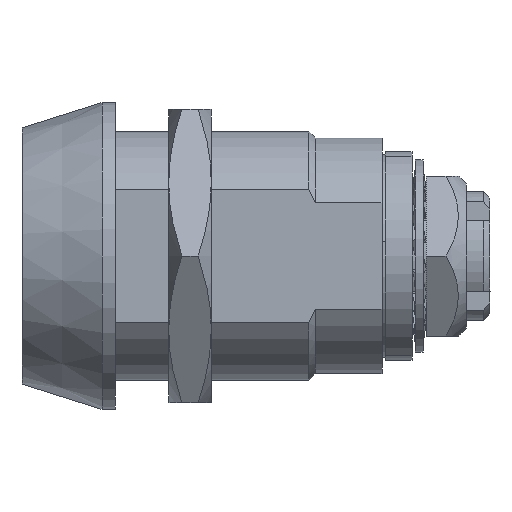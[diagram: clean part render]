
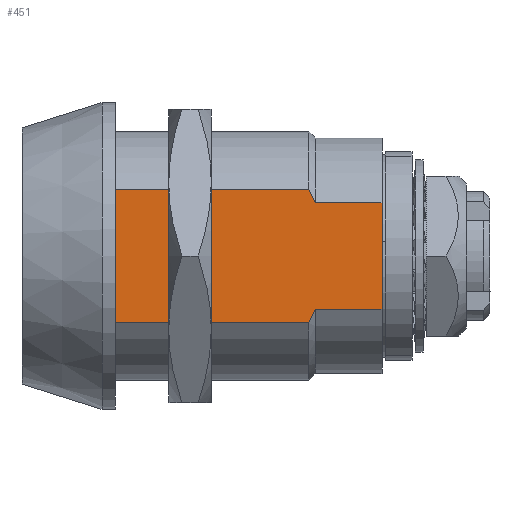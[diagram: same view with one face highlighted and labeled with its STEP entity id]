
A CAD part, left-side view. The second image highlights one B-rep face of the part: STEP entity #451.
In plain terms, the highlighted planar face has unit normal (-1, 0, 0).
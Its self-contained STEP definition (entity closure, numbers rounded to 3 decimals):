
#134 = EDGE_CURVE ( 'NONE', #5857, #4304, #5358, .T. ) ;
#297 = VECTOR ( 'NONE', #3434, 1000. ) ;
#451 = ADVANCED_FACE ( 'NONE', ( #5124 ), #5885, .T. ) ;
#472 = CARTESIAN_POINT ( 'NONE',  ( -7.9, 5.322, 4.669 ) ) ;
#508 = CARTESIAN_POINT ( 'NONE',  ( -7.9, 5., 3.989 ) ) ;
#587 = CARTESIAN_POINT ( 'NONE',  ( -7.9, 5.5, 5.001 ) ) ;
#651 = ORIENTED_EDGE ( 'NONE', *, *, #9443, .F. ) ;
#949 = VERTEX_POINT ( 'NONE', #4479 ) ;
#1168 = EDGE_CURVE ( 'NONE', #7373, #5988, #1871, .T. ) ;
#1228 = CARTESIAN_POINT ( 'NONE',  ( -7.9, 20., 5.001 ) ) ;
#1821 = VECTOR ( 'NONE', #2579, 1000. ) ;
#1871 = LINE ( 'NONE', #3613, #10432 ) ;
#1888 = CARTESIAN_POINT ( 'NONE',  ( -7.9, 5.322, -4.669 ) ) ;
#2010 = LINE ( 'NONE', #9469, #8642 ) ;
#2125 = CARTESIAN_POINT ( 'NONE',  ( -7.9, 0., 3.989 ) ) ;
#2234 = EDGE_CURVE ( 'NONE', #5857, #6680, #5461, .T. ) ;
#2364 = CARTESIAN_POINT ( 'NONE',  ( -7.9, 20., 5.001 ) ) ;
#2388 = LINE ( 'NONE', #5248, #1821 ) ;
#2579 = DIRECTION ( 'NONE',  ( 0., 0., -1. ) ) ;
#2681 = VERTEX_POINT ( 'NONE', #1228 ) ;
#3182 = CARTESIAN_POINT ( 'NONE',  ( -7.9, 20., 0. ) ) ;
#3220 = DIRECTION ( 'NONE',  ( 0., 0., 1. ) ) ;
#3238 = ORIENTED_EDGE ( 'NONE', *, *, #2234, .T. ) ;
#3264 = DIRECTION ( 'NONE',  ( 0., 1., 0. ) ) ;
#3287 = AXIS2_PLACEMENT_3D ( 'NONE', #3182, #5920, #5959 ) ;
#3434 = DIRECTION ( 'NONE',  ( 0., -1., 0. ) ) ;
#3613 = CARTESIAN_POINT ( 'NONE',  ( -7.9, 20., -5.001 ) ) ;
#3670 = CARTESIAN_POINT ( 'NONE',  ( -7.9, 5., -3.989 ) ) ;
#4050 = CARTESIAN_POINT ( 'NONE',  ( -7.9, 5.155, 4.332 ) ) ;
#4056 = ORIENTED_EDGE ( 'NONE', *, *, #10259, .T. ) ;
#4064 = DIRECTION ( 'NONE',  ( 0., 1., 0. ) ) ;
#4193 = EDGE_LOOP ( 'NONE', ( #6841, #4988, #5504, #4783, #651, #4056, #11032, #3238 ) ) ;
#4304 = VERTEX_POINT ( 'NONE', #2125 ) ;
#4454 = DIRECTION ( 'NONE',  ( 0., -1., 0. ) ) ;
#4479 = CARTESIAN_POINT ( 'NONE',  ( -7.9, 5., -3.989 ) ) ;
#4654 = B_SPLINE_CURVE_WITH_KNOTS ( 'NONE', 3,
 ( #8191, #1888, #9110, #3670 ),
 .UNSPECIFIED., .F., .F.,
 ( 4, 4 ),
 ( 0., 0.001 ),
 .UNSPECIFIED. ) ;
#4660 = VECTOR ( 'NONE', #3264, 1000. ) ;
#4734 = CARTESIAN_POINT ( 'NONE',  ( -7.9, 20., -5.001 ) ) ;
#4783 = ORIENTED_EDGE ( 'NONE', *, *, #8648, .T. ) ;
#4988 = ORIENTED_EDGE ( 'NONE', *, *, #8267, .T. ) ;
#5124 = FACE_OUTER_BOUND ( 'NONE', #4193, .T. ) ;
#5248 = CARTESIAN_POINT ( 'NONE',  ( -7.9, 20., 0. ) ) ;
#5281 = CARTESIAN_POINT ( 'NONE',  ( -7.9, 5., 3.989 ) ) ;
#5358 = LINE ( 'NONE', #5676, #297 ) ;
#5461 = B_SPLINE_CURVE_WITH_KNOTS ( 'NONE', 3,
 ( #508, #4050, #472, #587 ),
 .UNSPECIFIED., .F., .F.,
 ( 4, 4 ),
 ( 0., 0.001 ),
 .UNSPECIFIED. ) ;
#5489 = VERTEX_POINT ( 'NONE', #11415 ) ;
#5504 = ORIENTED_EDGE ( 'NONE', *, *, #1168, .T. ) ;
#5676 = CARTESIAN_POINT ( 'NONE',  ( -7.9, 0., 3.989 ) ) ;
#5857 = VERTEX_POINT ( 'NONE', #5281 ) ;
#5885 = PLANE ( 'NONE',  #3287 ) ;
#5920 = DIRECTION ( 'NONE',  ( -1., 0., 0. ) ) ;
#5942 = VECTOR ( 'NONE', #3220, 1000. ) ;
#5959 = DIRECTION ( 'NONE',  ( 0., 0., 1. ) ) ;
#5988 = VERTEX_POINT ( 'NONE', #8398 ) ;
#6680 = VERTEX_POINT ( 'NONE', #10423 ) ;
#6705 = EDGE_CURVE ( 'NONE', #6680, #2681, #7369, .T. ) ;
#6841 = ORIENTED_EDGE ( 'NONE', *, *, #6705, .T. ) ;
#7369 = LINE ( 'NONE', #2364, #4660 ) ;
#7373 = VERTEX_POINT ( 'NONE', #4734 ) ;
#8191 = CARTESIAN_POINT ( 'NONE',  ( -7.9, 5.5, -5.001 ) ) ;
#8267 = EDGE_CURVE ( 'NONE', #2681, #7373, #2388, .T. ) ;
#8398 = CARTESIAN_POINT ( 'NONE',  ( -7.9, 5.5, -5.001 ) ) ;
#8642 = VECTOR ( 'NONE', #4064, 1000. ) ;
#8648 = EDGE_CURVE ( 'NONE', #5988, #949, #4654, .T. ) ;
#8650 = CARTESIAN_POINT ( 'NONE',  ( -7.9, 0., 0. ) ) ;
#9110 = CARTESIAN_POINT ( 'NONE',  ( -7.9, 5.155, -4.332 ) ) ;
#9443 = EDGE_CURVE ( 'NONE', #5489, #949, #2010, .T. ) ;
#9469 = CARTESIAN_POINT ( 'NONE',  ( -7.9, 0., -3.989 ) ) ;
#10259 = EDGE_CURVE ( 'NONE', #5489, #4304, #10713, .T. ) ;
#10423 = CARTESIAN_POINT ( 'NONE',  ( -7.9, 5.5, 5.001 ) ) ;
#10432 = VECTOR ( 'NONE', #4454, 1000. ) ;
#10713 = LINE ( 'NONE', #8650, #5942 ) ;
#11032 = ORIENTED_EDGE ( 'NONE', *, *, #134, .F. ) ;
#11415 = CARTESIAN_POINT ( 'NONE',  ( -7.9, 0., -3.989 ) ) ;
